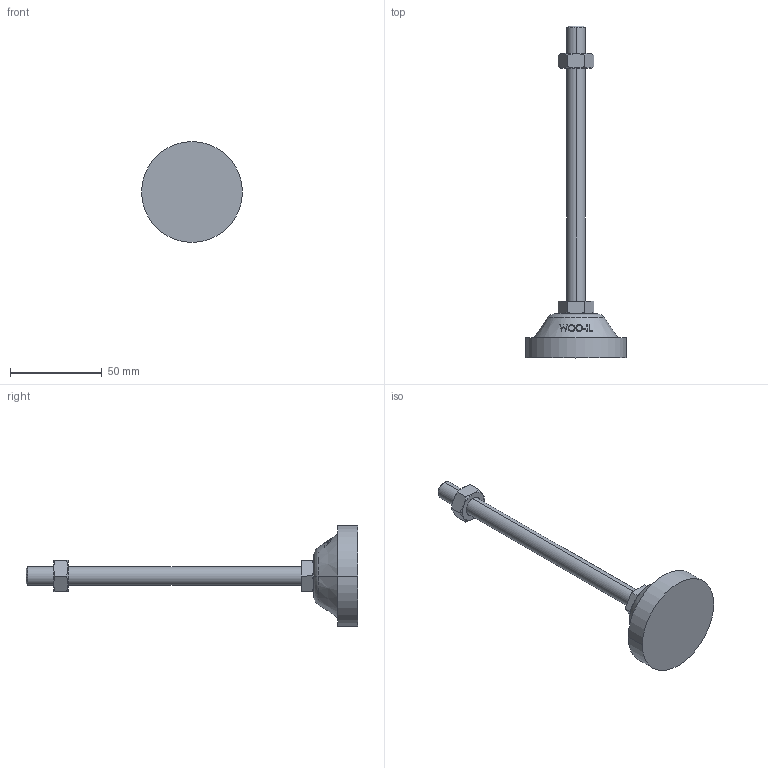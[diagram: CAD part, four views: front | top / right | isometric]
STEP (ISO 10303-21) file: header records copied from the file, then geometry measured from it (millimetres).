
FILE_DESCRIPTION (( 'STEP AP214' ), '1' );
FILE_NAME ('RL55-M10-150.step', '2021-01-06T08:16:26', ( '' ), ( '' ), 'SwSTEP 2.0', 'SolidWorks 2019', '' );
FILE_SCHEMA (( 'AUTOMOTIVE_DESIGN' ));
Length unit declared in the file: millimetre
Products named in the file (1): RL55-M10-150
Bounding box: 55 x 181 x 55 mm (x, y, z)
Volume: 55089.1 mm3; surface area: 14040.8 mm2
Topology: 3 solids, 3 shells, 93 faces, 217 edges, 140 vertices
Faces by surface type: plane 47, cone 22, bspline 16, cylinder 6, torus 2
Entity records: 4029 total; most frequent: CARTESIAN_POINT 1997, ORIENTED_EDGE 434, DIRECTION 349, EDGE_CURVE 217, VERTEX_POINT 140, AXIS2_PLACEMENT_3D 134, EDGE_LOOP 105, ADVANCED_FACE 93
